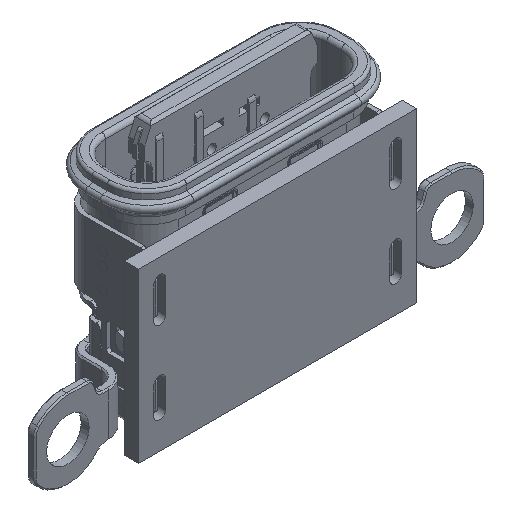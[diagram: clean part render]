
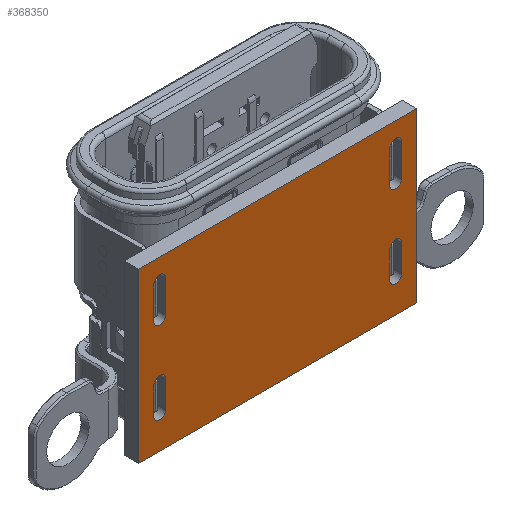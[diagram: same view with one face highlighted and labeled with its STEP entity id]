
A CAD part, isometric view. The second image highlights one B-rep face of the part: STEP entity #368350.
In plain terms, the highlighted planar face has unit normal (0, -1, 0) as drawn and (0, 0, -1) by its records, which use the part's own axes.
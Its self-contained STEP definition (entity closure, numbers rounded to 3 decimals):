
#365650=CARTESIAN_POINT('',(26.25,14.,0.65));
#365660=VERTEX_POINT('',#365650);
#365690=CARTESIAN_POINT('',(26.25,14.,0.65));
#365700=DIRECTION('',(1.,0.,0.));
#365710=VECTOR('',#365700,10.5);
#365720=LINE('',#365690,#365710);
#365730=CARTESIAN_POINT('',(36.75,14.,0.65));
#365740=VERTEX_POINT('',#365730);
#365750=EDGE_CURVE('',#365660,#365740,#365720,.T.);
#365960=CARTESIAN_POINT('',(26.25,7.65,0.65));
#365970=VERTEX_POINT('',#365960);
#366000=CARTESIAN_POINT('',(26.25,7.65,0.65));
#366010=DIRECTION('',(0.,1.,0.));
#366020=VECTOR('',#366010,6.35);
#366030=LINE('',#366000,#366020);
#366040=EDGE_CURVE('',#365970,#365660,#366030,.T.);
#366200=CARTESIAN_POINT('',(36.75,7.65,0.65));
#366210=VERTEX_POINT('',#366200);
#366240=CARTESIAN_POINT('',(36.75,7.65,0.65));
#366250=DIRECTION('',(-1.,0.,0.));
#366260=VECTOR('',#366250,10.5);
#366270=LINE('',#366240,#366260);
#366280=EDGE_CURVE('',#366210,#365970,#366270,.T.);
#366750=CARTESIAN_POINT('',(0.,0.,0.65));
#366760=DIRECTION('',(0.,0.,1.));
#366770=DIRECTION('',(1.,0.,0.));
#366780=AXIS2_PLACEMENT_3D('',#366750,#366760,#366770);
#366790=PLANE('',#366780);
#366800=ORIENTED_EDGE('',*,*,#366280,.T.);
#366810=CARTESIAN_POINT('',(36.75,14.,0.65));
#366820=DIRECTION('',(0.,-1.,0.));
#366830=VECTOR('',#366820,6.35);
#366840=LINE('',#366810,#366830);
#366850=EDGE_CURVE('',#365740,#366210,#366840,.T.);
#366860=ORIENTED_EDGE('',*,*,#366850,.T.);
#366870=ORIENTED_EDGE('',*,*,#365750,.T.);
#366880=ORIENTED_EDGE('',*,*,#366040,.T.);
#366890=EDGE_LOOP('',(#366880,#366870,#366860,#366800));
#366900=FACE_OUTER_BOUND('',#366890,.T.);
#366910=CARTESIAN_POINT('',(35.95,11.75,0.65));
#366920=DIRECTION('',(0.,0.,-1.));
#366930=DIRECTION('',(1.,0.,0.));
#366940=AXIS2_PLACEMENT_3D('',#366910,#366920,#366930);
#366950=CIRCLE('',#366940,0.225);
#366960=CARTESIAN_POINT('',(36.175,11.75,0.65));
#366970=VERTEX_POINT('',#366960);
#366980=CARTESIAN_POINT('',(35.725,11.75,0.65));
#366990=VERTEX_POINT('',#366980);
#367000=EDGE_CURVE('',#366970,#366990,#366950,.T.);
#367010=ORIENTED_EDGE('',*,*,#367000,.F.);
#367020=CARTESIAN_POINT('',(35.725,12.75,0.65));
#367030=DIRECTION('',(0.,-1.,0.));
#367040=VECTOR('',#367030,1.);
#367050=LINE('',#367020,#367040);
#367060=CARTESIAN_POINT('',(35.725,12.75,0.65));
#367070=VERTEX_POINT('',#367060);
#367080=EDGE_CURVE('',#367070,#366990,#367050,.T.);
#367090=ORIENTED_EDGE('',*,*,#367080,.T.);
#367100=CARTESIAN_POINT('',(35.95,12.75,0.65));
#367110=DIRECTION('',(0.,0.,-1.));
#367120=DIRECTION('',(-1.,0.,0.));
#367130=AXIS2_PLACEMENT_3D('',#367100,#367110,#367120);
#367140=CIRCLE('',#367130,0.225);
#367150=CARTESIAN_POINT('',(36.175,12.75,0.65));
#367160=VERTEX_POINT('',#367150);
#367170=EDGE_CURVE('',#367070,#367160,#367140,.T.);
#367180=ORIENTED_EDGE('',*,*,#367170,.F.);
#367190=CARTESIAN_POINT('',(36.175,11.75,0.65));
#367200=DIRECTION('',(0.,1.,0.));
#367210=VECTOR('',#367200,1.);
#367220=LINE('',#367190,#367210);
#367230=EDGE_CURVE('',#366970,#367160,#367220,.T.);
#367240=ORIENTED_EDGE('',*,*,#367230,.T.);
#367250=EDGE_LOOP('',(#367240,#367180,#367090,#367010));
#367260=FACE_BOUND('',#367250,.T.);
#367270=CARTESIAN_POINT('',(26.825,9.65,0.65));
#367280=DIRECTION('',(0.,-1.,0.));
#367290=VECTOR('',#367280,1.2);
#367300=LINE('',#367270,#367290);
#367310=CARTESIAN_POINT('',(26.825,9.65,0.65));
#367320=VERTEX_POINT('',#367310);
#367330=CARTESIAN_POINT('',(26.825,8.45,0.65));
#367340=VERTEX_POINT('',#367330);
#367350=EDGE_CURVE('',#367320,#367340,#367300,.T.);
#367360=ORIENTED_EDGE('',*,*,#367350,.T.);
#367370=CARTESIAN_POINT('',(27.05,9.65,0.65));
#367380=DIRECTION('',(0.,0.,-1.));
#367390=DIRECTION('',(-1.,0.,0.));
#367400=AXIS2_PLACEMENT_3D('',#367370,#367380,#367390);
#367410=CIRCLE('',#367400,0.225);
#367420=CARTESIAN_POINT('',(27.275,9.65,0.65));
#367430=VERTEX_POINT('',#367420);
#367440=EDGE_CURVE('',#367320,#367430,#367410,.T.);
#367450=ORIENTED_EDGE('',*,*,#367440,.F.);
#367460=CARTESIAN_POINT('',(27.275,8.45,0.65));
#367470=DIRECTION('',(0.,1.,0.));
#367480=VECTOR('',#367470,1.2);
#367490=LINE('',#367460,#367480);
#367500=CARTESIAN_POINT('',(27.275,8.45,0.65));
#367510=VERTEX_POINT('',#367500);
#367520=EDGE_CURVE('',#367510,#367430,#367490,.T.);
#367530=ORIENTED_EDGE('',*,*,#367520,.T.);
#367540=CARTESIAN_POINT('',(27.05,8.45,0.65));
#367550=DIRECTION('',(0.,0.,-1.));
#367560=DIRECTION('',(1.,0.,0.));
#367570=AXIS2_PLACEMENT_3D('',#367540,#367550,#367560);
#367580=CIRCLE('',#367570,0.225);
#367590=EDGE_CURVE('',#367510,#367340,#367580,.T.);
#367600=ORIENTED_EDGE('',*,*,#367590,.F.);
#367610=EDGE_LOOP('',(#367600,#367530,#367450,#367360));
#367620=FACE_BOUND('',#367610,.T.);
#367630=CARTESIAN_POINT('',(27.275,11.75,0.65));
#367640=DIRECTION('',(0.,1.,0.));
#367650=VECTOR('',#367640,1.);
#367660=LINE('',#367630,#367650);
#367670=CARTESIAN_POINT('',(27.275,11.75,0.65));
#367680=VERTEX_POINT('',#367670);
#367690=CARTESIAN_POINT('',(27.275,12.75,0.65));
#367700=VERTEX_POINT('',#367690);
#367710=EDGE_CURVE('',#367680,#367700,#367660,.T.);
#367720=ORIENTED_EDGE('',*,*,#367710,.T.);
#367730=CARTESIAN_POINT('',(27.05,11.75,0.65));
#367740=DIRECTION('',(0.,0.,-1.));
#367750=DIRECTION('',(1.,0.,0.));
#367760=AXIS2_PLACEMENT_3D('',#367730,#367740,#367750);
#367770=CIRCLE('',#367760,0.225);
#367780=CARTESIAN_POINT('',(26.825,11.75,0.65));
#367790=VERTEX_POINT('',#367780);
#367800=EDGE_CURVE('',#367680,#367790,#367770,.T.);
#367810=ORIENTED_EDGE('',*,*,#367800,.F.);
#367820=CARTESIAN_POINT('',(26.825,12.75,0.65));
#367830=DIRECTION('',(0.,-1.,0.));
#367840=VECTOR('',#367830,1.);
#367850=LINE('',#367820,#367840);
#367860=CARTESIAN_POINT('',(26.825,12.75,0.65));
#367870=VERTEX_POINT('',#367860);
#367880=EDGE_CURVE('',#367870,#367790,#367850,.T.);
#367890=ORIENTED_EDGE('',*,*,#367880,.T.);
#367900=CARTESIAN_POINT('',(27.05,12.75,0.65));
#367910=DIRECTION('',(0.,0.,-1.));
#367920=DIRECTION('',(-1.,0.,0.));
#367930=AXIS2_PLACEMENT_3D('',#367900,#367910,#367920);
#367940=CIRCLE('',#367930,0.225);
#367950=EDGE_CURVE('',#367870,#367700,#367940,.T.);
#367960=ORIENTED_EDGE('',*,*,#367950,.F.);
#367970=EDGE_LOOP('',(#367960,#367890,#367810,#367720));
#367980=FACE_BOUND('',#367970,.T.);
#367990=CARTESIAN_POINT('',(35.95,8.45,0.65));
#368000=DIRECTION('',(0.,0.,-1.));
#368010=DIRECTION('',(1.,0.,0.));
#368020=AXIS2_PLACEMENT_3D('',#367990,#368000,#368010);
#368030=CIRCLE('',#368020,0.225);
#368040=CARTESIAN_POINT('',(36.175,8.45,0.65));
#368050=VERTEX_POINT('',#368040);
#368060=CARTESIAN_POINT('',(35.725,8.45,0.65));
#368070=VERTEX_POINT('',#368060);
#368080=EDGE_CURVE('',#368050,#368070,#368030,.T.);
#368090=ORIENTED_EDGE('',*,*,#368080,.F.);
#368100=CARTESIAN_POINT('',(35.725,9.65,0.65));
#368110=DIRECTION('',(0.,-1.,0.));
#368120=VECTOR('',#368110,1.2);
#368130=LINE('',#368100,#368120);
#368140=CARTESIAN_POINT('',(35.725,9.65,0.65));
#368150=VERTEX_POINT('',#368140);
#368160=EDGE_CURVE('',#368150,#368070,#368130,.T.);
#368170=ORIENTED_EDGE('',*,*,#368160,.T.);
#368180=CARTESIAN_POINT('',(35.95,9.65,0.65));
#368190=DIRECTION('',(0.,0.,-1.));
#368200=DIRECTION('',(-1.,0.,0.));
#368210=AXIS2_PLACEMENT_3D('',#368180,#368190,#368200);
#368220=CIRCLE('',#368210,0.225);
#368230=CARTESIAN_POINT('',(36.175,9.65,0.65));
#368240=VERTEX_POINT('',#368230);
#368250=EDGE_CURVE('',#368150,#368240,#368220,.T.);
#368260=ORIENTED_EDGE('',*,*,#368250,.F.);
#368270=CARTESIAN_POINT('',(36.175,8.45,0.65));
#368280=DIRECTION('',(0.,1.,0.));
#368290=VECTOR('',#368280,1.2);
#368300=LINE('',#368270,#368290);
#368310=EDGE_CURVE('',#368050,#368240,#368300,.T.);
#368320=ORIENTED_EDGE('',*,*,#368310,.T.);
#368330=EDGE_LOOP('',(#368320,#368260,#368170,#368090));
#368340=FACE_BOUND('',#368330,.T.);
#368350=ADVANCED_FACE('',(#366900,#367260,#367620,#367980,#368340),
#366790,.F.);
